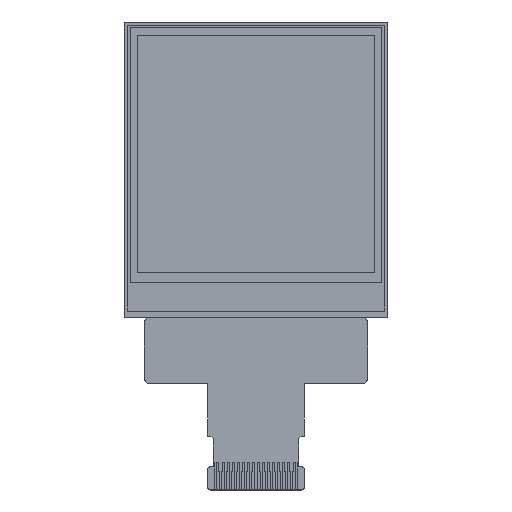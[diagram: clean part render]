
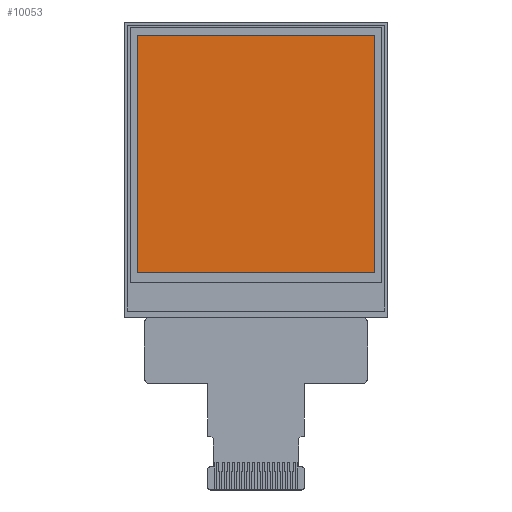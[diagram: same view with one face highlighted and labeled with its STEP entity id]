
A CAD part, top view. The second image highlights one B-rep face of the part: STEP entity #10053.
In plain terms, the highlighted planar face has unit normal (0, 0, 1).
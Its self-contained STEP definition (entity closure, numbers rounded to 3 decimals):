
#386 = EDGE_CURVE ( 'NONE', #943, #808, #4259, .T. ) ;
#594 = CARTESIAN_POINT ( 'NONE',  ( 11.7, -10.125, 1.5 ) ) ;
#808 = VERTEX_POINT ( 'NONE', #7691 ) ;
#829 = DIRECTION ( 'NONE',  ( 0., 0., 1. ) ) ;
#943 = VERTEX_POINT ( 'NONE', #2216 ) ;
#1404 = LINE ( 'NONE', #6346, #4930 ) ;
#1762 = EDGE_CURVE ( 'NONE', #2751, #7035, #1404, .T. ) ;
#2216 = CARTESIAN_POINT ( 'NONE',  ( -11.7, 13.275, 1.5 ) ) ;
#2233 = ORIENTED_EDGE ( 'NONE', *, *, #1762, .F. ) ;
#2668 = LINE ( 'NONE', #5602, #7396 ) ;
#2751 = VERTEX_POINT ( 'NONE', #594 ) ;
#3280 = CARTESIAN_POINT ( 'NONE',  ( -11.7, -10.125, 1.5 ) ) ;
#3429 = ORIENTED_EDGE ( 'NONE', *, *, #386, .F. ) ;
#4259 = LINE ( 'NONE', #4362, #8515 ) ;
#4362 = CARTESIAN_POINT ( 'NONE',  ( 0., 13.275, 1.5 ) ) ;
#4376 = DIRECTION ( 'NONE',  ( 0., 1., 0. ) ) ;
#4784 = ORIENTED_EDGE ( 'NONE', *, *, #7282, .F. ) ;
#4928 = DIRECTION ( 'NONE',  ( 1., 0., 0. ) ) ;
#4930 = VECTOR ( 'NONE', #7111, 1000. ) ;
#5064 = DIRECTION ( 'NONE',  ( 1., 0., 0. ) ) ;
#5380 = AXIS2_PLACEMENT_3D ( 'NONE', #7406, #829, #4928 ) ;
#5555 = DIRECTION ( 'NONE',  ( 0., -1., 0. ) ) ;
#5602 = CARTESIAN_POINT ( 'NONE',  ( 11.7, 0., 1.5 ) ) ;
#5905 = CARTESIAN_POINT ( 'NONE',  ( -11.7, 0., 1.5 ) ) ;
#6346 = CARTESIAN_POINT ( 'NONE',  ( 0., -10.125, 1.5 ) ) ;
#6938 = LINE ( 'NONE', #5905, #8549 ) ;
#7035 = VERTEX_POINT ( 'NONE', #3280 ) ;
#7111 = DIRECTION ( 'NONE',  ( -1., 0., 0. ) ) ;
#7168 = ORIENTED_EDGE ( 'NONE', *, *, #8284, .F. ) ;
#7282 = EDGE_CURVE ( 'NONE', #7035, #943, #6938, .T. ) ;
#7396 = VECTOR ( 'NONE', #5555, 1000. ) ;
#7406 = CARTESIAN_POINT ( 'NONE',  ( 0., 0., 1.5 ) ) ;
#7691 = CARTESIAN_POINT ( 'NONE',  ( 11.7, 13.275, 1.5 ) ) ;
#8058 = EDGE_LOOP ( 'NONE', ( #4784, #2233, #7168, #3429 ) ) ;
#8284 = EDGE_CURVE ( 'NONE', #808, #2751, #2668, .T. ) ;
#8515 = VECTOR ( 'NONE', #5064, 1000. ) ;
#8549 = VECTOR ( 'NONE', #4376, 1000. ) ;
#8849 = PLANE ( 'NONE',  #5380 ) ;
#8898 = FACE_OUTER_BOUND ( 'NONE', #8058, .T. ) ;
#10053 = ADVANCED_FACE ( 'NONE', ( #8898 ), #8849, .T. ) ;
